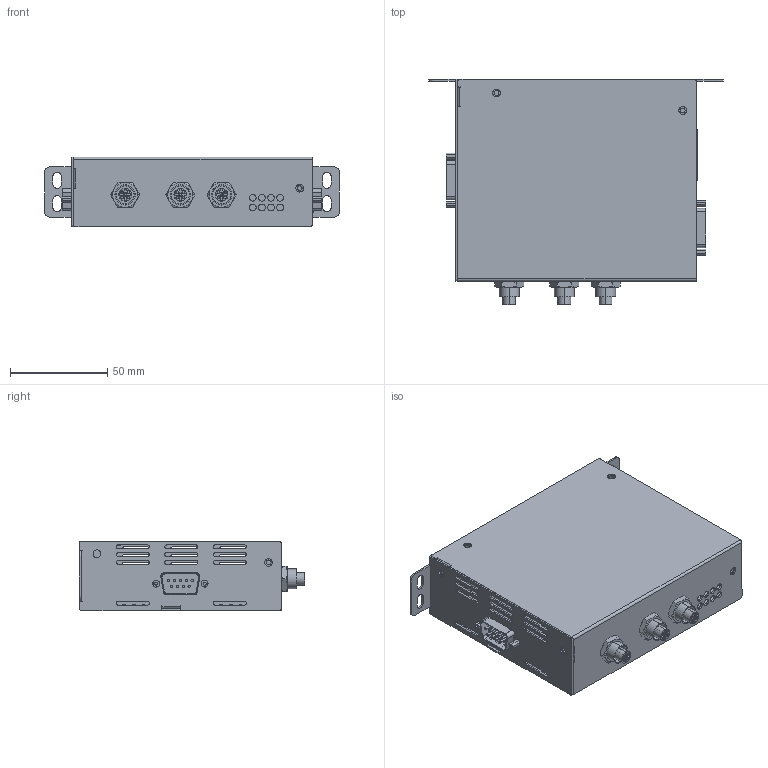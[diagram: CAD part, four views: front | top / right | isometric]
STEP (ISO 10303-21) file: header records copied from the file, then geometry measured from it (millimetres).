
FILE_DESCRIPTION(/* description */ (''),/* implementation_level */ '2;1');
FILE_NAME(/* name */ '2',/* time_stamp */ '2025-03-21T14:50:10+08:00',/* author */ (''),/* organization */ (''),/* preprocessor_version */ 'ST-DEVELOPER v19.2',/* originating_system */ 'Rhino 8.1',/* authorisation */ '');
FILE_SCHEMA (('CONFIG_CONTROL_DESIGN'));
Length unit declared in the file: millimetre
Products named in the file (2): Document; GEM-K290-YC05B-02
Bounding box: 151.99 x 116 x 36 mm (x, y, z)
Volume: 43526 mm3; surface area: 93104.9 mm2
Topology: 13 solids, 37 shells, 903 faces, 2344 edges, 1488 vertices
Faces by surface type: plane 454, cylinder 356, bspline 93
Entity records: 29318 total; most frequent: CARTESIAN_POINT 10265, ORIENTED_EDGE 4608, EDGE_CURVE 2344, DIRECTION 2248, AXIS2_PLACEMENT_3D 1529, VERTEX_POINT 1484, B_SPLINE_CURVE_WITH_KNOTS 1229, EDGE_LOOP 1100
